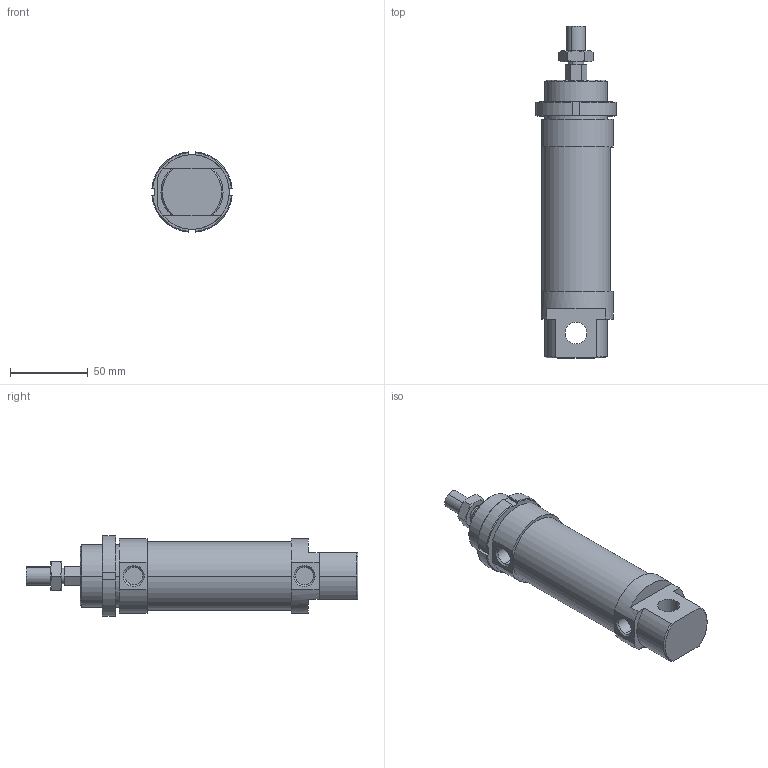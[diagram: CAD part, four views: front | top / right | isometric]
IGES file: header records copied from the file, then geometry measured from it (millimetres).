
Global section: file name: No Iges File Name specified; native system: AutoDesk Inventor R6.0; preprocessor: AutoDesk Inventor Iges Exporter R6.0; author: No Author specified; organization: No Organization specified; date: 20030405.074414; units: millimetre
Bounding box: 51.76 x 214 x 51.76 mm (x, y, z)
Volume: 267061.3 mm3; surface area: 45054.2 mm2
Topology: 4 solids, 4 shells, 126 faces, 298 edges, 188 vertices
Faces by surface type: plane 52, cone 30, cylinder 20, bspline 20, revolution 4
